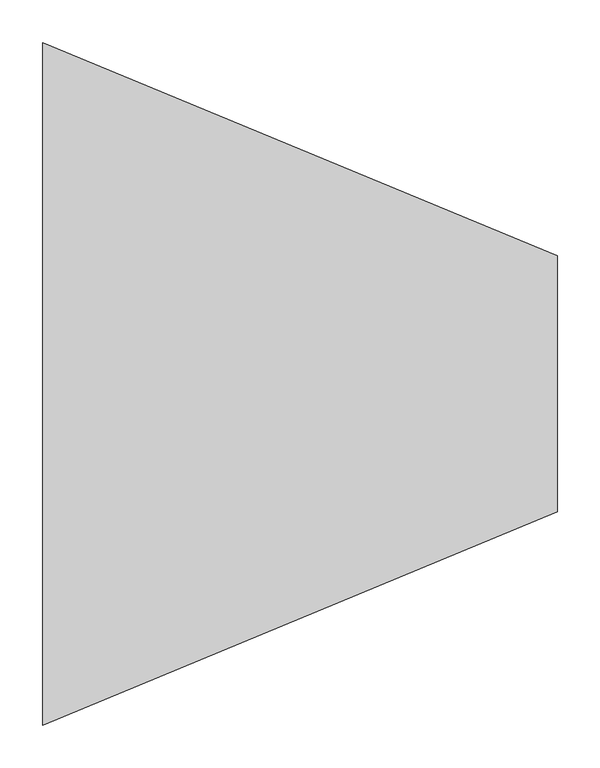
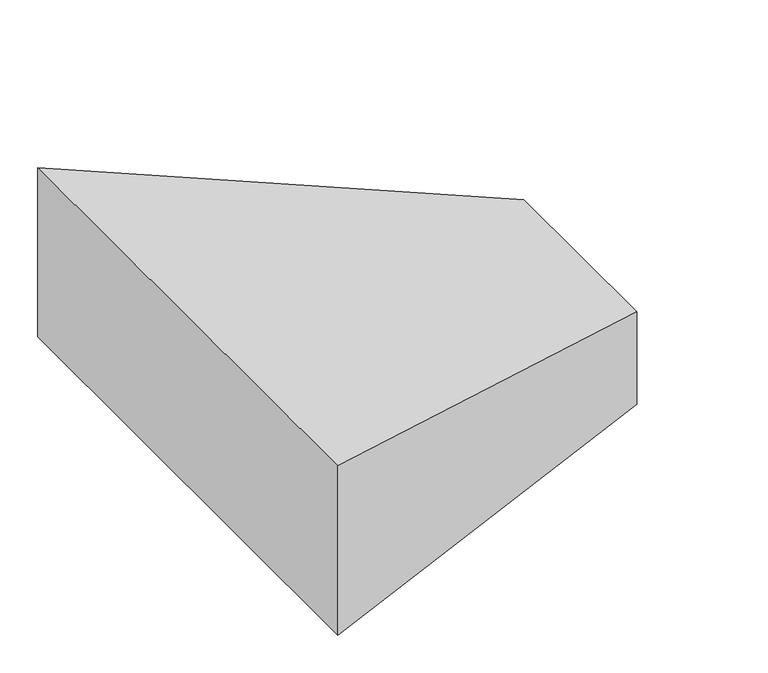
"""IFC4 building model written with IfcOpenShell, lengths in millimetres: duct fitting geometry, M_Transición rectangular - Ángulo : EXT_45 graus."""

from ifc_helpers import new_model, si_unit, origin, place, context, project, spatial, faceted_brep, source, transform, mapped, element, save


def duct_fitting_4802cc83(model_context):
    return source(origin(), model_context, "Body", "Brep", [
        faceted_brep([(603.5533867, -149.9473506, 25.0), (603.5533867, -149.9473506, -125.0), (603.5533867, 150.0526494, -125.0), (603.5533867, 150.0526494, 25.0), (0.0, -400.0, 137.5), (0.0, 400.0, 137.5), (0.0, 400.0, -137.5), (0.0, -400.0, -137.5)], [[[0, 1, 2, 3]], [[4, 5, 6, 7]], [[4, 7, 1, 0]], [[7, 6, 2, 1]], [[6, 5, 3, 2]], [[5, 4, 0, 3]]]),
    ])


if __name__ == "__main__":
    model = new_model("IFC4")
    model_context = context("Model", 3, world=origin())
    ifc_project = project(units=[si_unit("LENGTHUNIT", "METRE", prefix="MILLI")], contexts=[model_context])
    site = spatial("IfcSite", under=ifc_project)
    building = spatial("IfcBuilding", under=site)
    placement = place(None, origin())
    duct_fitting_shape = duct_fitting_4802cc83(model_context)
    element("IfcDuctFitting", 1, ObjectType="M_Transición rectangular - Ángulo : EXT_45 graus", at=placement, inside=building, context=model_context, shape_type="MappedRepresentation", body=[
        mapped(duct_fitting_shape, transform((0.0, 0.0, 0.0), x_axis=(1.0, 0.0, 0.0), y_axis=(0.0, 1.0, 0.0), z_axis=(0.0, 0.0, 1.0))),
    ])
    save(model, "model.ifc")
